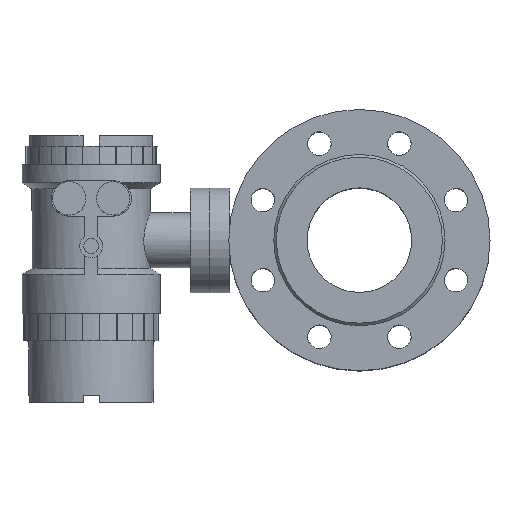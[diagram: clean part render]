
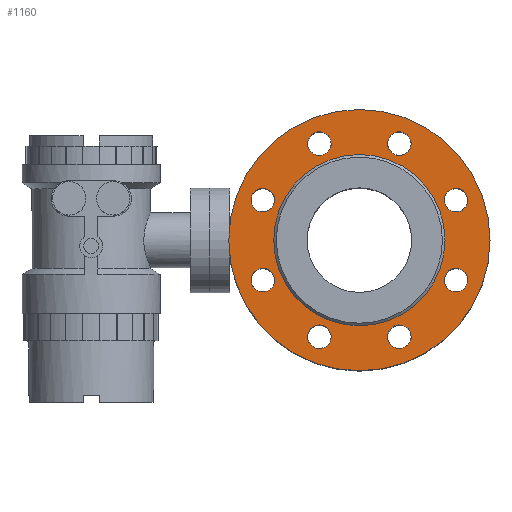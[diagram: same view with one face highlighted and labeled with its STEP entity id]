
A CAD part, top view. The second image highlights one B-rep face of the part: STEP entity #1160.
In plain terms, the highlighted planar face has unit normal (0, 0, 1).
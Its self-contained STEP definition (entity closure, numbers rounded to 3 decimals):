
#217=FACE_BOUND('',#1746,.T.);
#218=FACE_BOUND('',#1747,.T.);
#219=FACE_BOUND('',#1748,.T.);
#220=FACE_BOUND('',#1749,.T.);
#221=FACE_BOUND('',#1750,.T.);
#222=FACE_BOUND('',#1751,.T.);
#223=FACE_BOUND('',#1752,.T.);
#224=FACE_BOUND('',#1753,.T.);
#225=FACE_BOUND('',#1754,.T.);
#226=FACE_BOUND('',#1755,.T.);
#1160=ADVANCED_FACE('',(#217,#218,#219,#220,#221,#222,#223,#224,#225,#226),
#1280,.T.);
#1280=PLANE('',#4459);
#1746=EDGE_LOOP('',(#2836));
#1747=EDGE_LOOP('',(#2837));
#1748=EDGE_LOOP('',(#2838));
#1749=EDGE_LOOP('',(#2839));
#1750=EDGE_LOOP('',(#2840));
#1751=EDGE_LOOP('',(#2841));
#1752=EDGE_LOOP('',(#2842));
#1753=EDGE_LOOP('',(#2843));
#1754=EDGE_LOOP('',(#2844));
#1755=EDGE_LOOP('',(#2845));
#2836=ORIENTED_EDGE('',*,*,#3743,.F.);
#2837=ORIENTED_EDGE('',*,*,#3747,.F.);
#2838=ORIENTED_EDGE('',*,*,#3751,.F.);
#2839=ORIENTED_EDGE('',*,*,#3755,.F.);
#2840=ORIENTED_EDGE('',*,*,#3759,.F.);
#2841=ORIENTED_EDGE('',*,*,#3763,.F.);
#2842=ORIENTED_EDGE('',*,*,#3767,.F.);
#2843=ORIENTED_EDGE('',*,*,#3795,.F.);
#2844=ORIENTED_EDGE('',*,*,#3796,.F.);
#2845=ORIENTED_EDGE('',*,*,#3794,.F.);
#3198=VERTEX_POINT('',#6823);
#3202=VERTEX_POINT('',#6833);
#3206=VERTEX_POINT('',#6843);
#3210=VERTEX_POINT('',#6853);
#3214=VERTEX_POINT('',#6863);
#3218=VERTEX_POINT('',#6873);
#3222=VERTEX_POINT('',#6883);
#3249=VERTEX_POINT('',#6974);
#3250=VERTEX_POINT('',#6977);
#3251=VERTEX_POINT('',#6979);
#3743=EDGE_CURVE('',#3198,#3198,#3967,.T.);
#3747=EDGE_CURVE('',#3202,#3202,#3971,.T.);
#3751=EDGE_CURVE('',#3206,#3206,#3975,.T.);
#3755=EDGE_CURVE('',#3210,#3210,#3979,.T.);
#3759=EDGE_CURVE('',#3214,#3214,#3983,.T.);
#3763=EDGE_CURVE('',#3218,#3218,#3987,.T.);
#3767=EDGE_CURVE('',#3222,#3222,#3991,.T.);
#3794=EDGE_CURVE('',#3249,#3249,#4017,.T.);
#3795=EDGE_CURVE('',#3250,#3250,#4018,.T.);
#3796=EDGE_CURVE('',#3251,#3251,#4019,.T.);
#3967=CIRCLE('',#4377,9.);
#3971=CIRCLE('',#4383,9.);
#3975=CIRCLE('',#4389,9.);
#3979=CIRCLE('',#4395,9.);
#3983=CIRCLE('',#4401,9.);
#3987=CIRCLE('',#4407,9.);
#3991=CIRCLE('',#4413,9.);
#4017=CIRCLE('',#4455,100.);
#4018=CIRCLE('',#4457,9.);
#4019=CIRCLE('',#4458,65.556);
#4377=AXIS2_PLACEMENT_3D('',#6822,#5480,#5481);
#4383=AXIS2_PLACEMENT_3D('',#6832,#5492,#5493);
#4389=AXIS2_PLACEMENT_3D('',#6842,#5504,#5505);
#4395=AXIS2_PLACEMENT_3D('',#6852,#5516,#5517);
#4401=AXIS2_PLACEMENT_3D('',#6862,#5528,#5529);
#4407=AXIS2_PLACEMENT_3D('',#6872,#5540,#5541);
#4413=AXIS2_PLACEMENT_3D('',#6882,#5552,#5553);
#4455=AXIS2_PLACEMENT_3D('',#6973,#5636,#5637);
#4457=AXIS2_PLACEMENT_3D('',#6976,#5640,#5641);
#4458=AXIS2_PLACEMENT_3D('',#6978,#5642,#5643);
#4459=AXIS2_PLACEMENT_3D('',#6980,#5644,#5645);
#5480=DIRECTION('',(0.,0.,1.));
#5481=DIRECTION('',(0.924,0.383,0.));
#5492=DIRECTION('',(0.,0.,1.));
#5493=DIRECTION('',(0.383,0.924,0.));
#5504=DIRECTION('',(0.,0.,1.));
#5505=DIRECTION('',(-0.383,0.924,0.));
#5516=DIRECTION('',(0.,0.,1.));
#5517=DIRECTION('',(-0.924,0.383,0.));
#5528=DIRECTION('',(0.,0.,1.));
#5529=DIRECTION('',(-0.924,-0.383,0.));
#5540=DIRECTION('',(0.,0.,1.));
#5541=DIRECTION('',(-0.383,-0.924,0.));
#5552=DIRECTION('',(0.,0.,1.));
#5553=DIRECTION('',(0.383,-0.924,0.));
#5636=DIRECTION('',(0.,0.,-1.));
#5637=DIRECTION('',(1.,0.,0.));
#5640=DIRECTION('',(0.,0.,1.));
#5641=DIRECTION('',(0.924,-0.383,0.));
#5642=DIRECTION('',(0.,0.,1.));
#5643=DIRECTION('',(1.,0.,0.));
#5644=DIRECTION('',(0.,0.,1.));
#5645=DIRECTION('',(-0.924,-0.383,0.));
#6822=CARTESIAN_POINT('',(235.915,-73.91,-25.5));
#6823=CARTESIAN_POINT('',(244.23,-70.466,-25.5));
#6832=CARTESIAN_POINT('',(279.21,-30.615,-25.5));
#6833=CARTESIAN_POINT('',(282.655,-22.3,-25.5));
#6842=CARTESIAN_POINT('',(279.21,30.615,-25.5));
#6843=CARTESIAN_POINT('',(275.766,38.93,-25.5));
#6852=CARTESIAN_POINT('',(235.915,73.91,-25.5));
#6853=CARTESIAN_POINT('',(227.6,77.355,-25.5));
#6862=CARTESIAN_POINT('',(174.685,73.91,-25.5));
#6863=CARTESIAN_POINT('',(166.37,70.466,-25.5));
#6872=CARTESIAN_POINT('',(131.39,30.615,-25.5));
#6873=CARTESIAN_POINT('',(127.945,22.3,-25.5));
#6882=CARTESIAN_POINT('',(131.39,-30.615,-25.5));
#6883=CARTESIAN_POINT('',(134.834,-38.93,-25.5));
#6973=CARTESIAN_POINT('',(205.3,0.,-25.5));
#6974=CARTESIAN_POINT('',(305.3,0.,-25.5));
#6976=CARTESIAN_POINT('',(174.685,-73.91,-25.5));
#6977=CARTESIAN_POINT('',(183.,-77.355,-25.5));
#6978=CARTESIAN_POINT('',(205.3,0.,-25.5));
#6979=CARTESIAN_POINT('',(270.856,0.,-25.5));
#6980=CARTESIAN_POINT('',(205.3,0.,-25.5));
